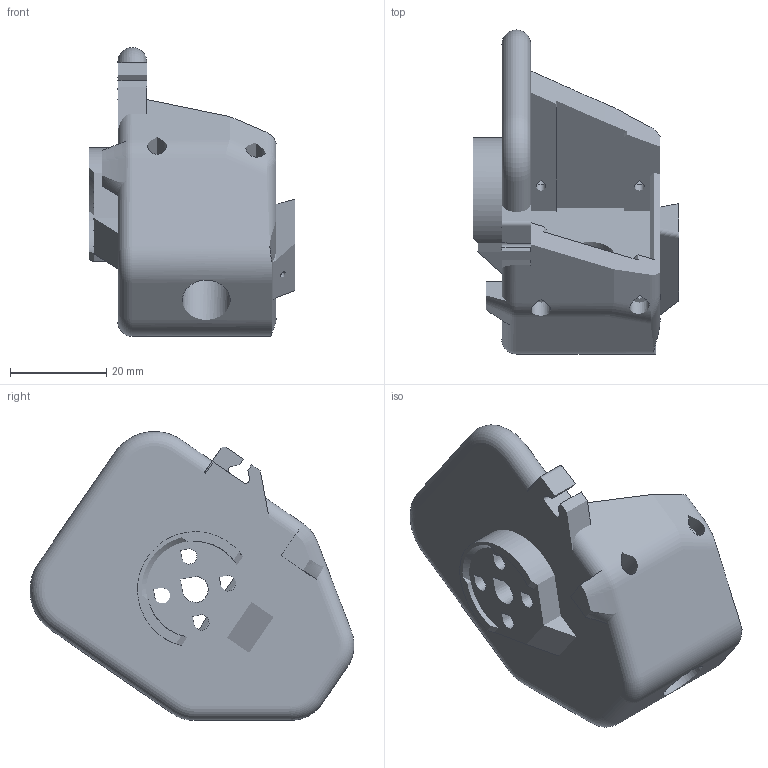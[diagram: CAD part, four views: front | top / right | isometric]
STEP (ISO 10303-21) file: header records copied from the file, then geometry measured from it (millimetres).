
FILE_DESCRIPTION(/* description */ ('STEP AP242 Edition 2','CAx-IF Rec.Pracs.---Representation and Presentation of Product Manufacturing Information (PMI)---4.0---2014-10-13','CAx-IF Rec.Pracs.---3D Tessellated Geometry---0.4---2014-09-14','2;1','CAx-IF Rec.Pracs.---User Defined Attributes---1.5---2016-08-15'),/* implementation_level */ '2;1');
FILE_NAME(/* name */ 'BambuLabA1mini_Leader_SO101 - Part 5',/* time_stamp */ '2026-11-25T15:08:23Z',/* author */ (''),/* organization */ (''),/* preprocessor_version */ 'ST-DEVELOPER v20',/* originating_system */ 'ONSHAPE BY PTC INC, 1.224',/* authorisation */ ' ');
FILE_SCHEMA (('AP242_MANAGED_MODEL_BASED_3D_ENGINEERING_MIM_LF { 1 0 10303 442 3 1 4 }'));
Length unit declared in the file: metre
Products named in the file (1): Part 5
Bounding box: 42.85 x 67.44 x 60.12 mm (x, y, z)
Surface area: 14182.6 mm2 (no closed solid volume)
Topology: 0 solids, 1 shells, 1 faces, 0 edges, 0 vertices
Faces by surface type: other 1
Entity records: 38 total; most frequent: STYLED_ITEM 2, PRESENTATION_STYLE_ASSIGNMENT 2, SURFACE_STYLE_USAGE 2, SURFACE_SIDE_STYLE 2, SURFACE_STYLE_FILL_AREA 2, FILL_AREA_STYLE 2, FILL_AREA_STYLE_COLOUR 2, DIRECTION 2
